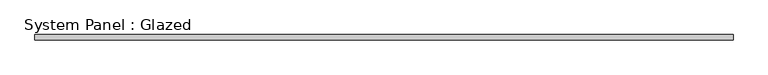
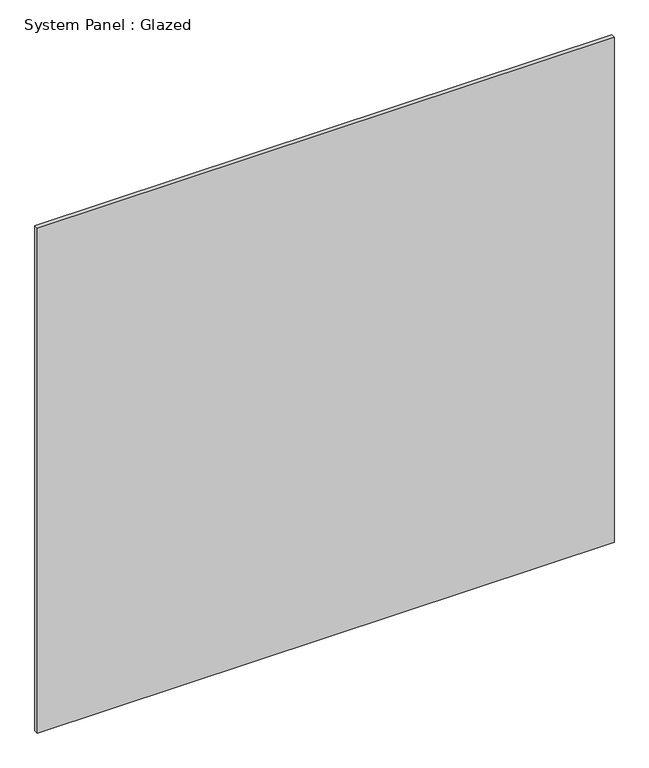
"""IFC4 building model written with IfcOpenShell, lengths in millimetres: plate geometry, System Panel : Glazed."""

from ifc_helpers import new_model, si_unit, origin, origin_with_axes, place, context, project, spatial, polyline, outline, extrude, source, transform, mapped, element, save


def system_panel_glazed_50f777d6(model_context):
    return source(origin(), model_context, "Body", "SweptSolid", [
        extrude(outline(polyline([(1675.0, 24.5), (-1675.0, 24.5), (-1675.0, 49.5), (1675.0, 49.5), (1675.0, 24.5)])), origin_with_axes(), (0.0, 0.0, 1.0), 3100.0),
    ])


if __name__ == "__main__":
    model = new_model("IFC4")
    model_context = context("Model", 3, world=origin())
    ifc_project = project(units=[si_unit("LENGTHUNIT", "METRE", prefix="MILLI")], contexts=[model_context])
    site = spatial("IfcSite", under=ifc_project)
    building = spatial("IfcBuilding", under=site)
    placement = place(None, origin())
    system_panel_glazed_shape = system_panel_glazed_50f777d6(model_context)
    element("IfcPlate", 1, ObjectType="System Panel : Glazed", at=placement, inside=building, context=model_context, shape_type="MappedRepresentation", body=[
        mapped(system_panel_glazed_shape, transform((0.0, 0.0, 0.0), x_axis=(1.0, 0.0, 0.0), y_axis=(0.0, 1.0, 0.0), z_axis=(0.0, 0.0, 1.0))),
    ])
    save(model, "model.ifc")
